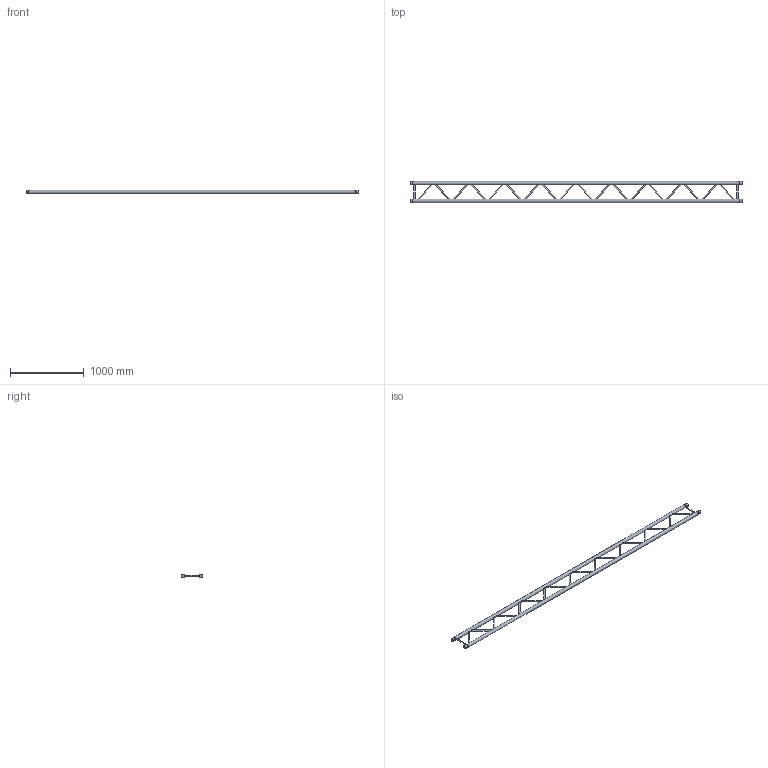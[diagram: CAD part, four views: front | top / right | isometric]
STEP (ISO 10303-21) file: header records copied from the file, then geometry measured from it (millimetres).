
FILE_DESCRIPTION(/* description */ (''),/* implementation_level */ '2;1');
FILE_NAME(/* name */ 'C:\Users\stephan\Desktop\Nieuwe map\H30L\111050056.stp',/* time_stamp */ '2016-09-12T12:01:45+02:00',/* author */ ('Stephan'),/* organization */ (''),/* preprocessor_version */ 'ST-DEVELOPER v15.6',/* originating_system */ 'Autodesk Inventor 2015',/* authorisation */ '');
FILE_SCHEMA (('AUTOMOTIVE_DESIGN { 1 0 10303 214 3 1 1 }'));
Length unit declared in the file: millimetre
Products named in the file (1): 160026976
Bounding box: 4500 x 287.3 x 48.3 mm (x, y, z)
Volume: 5155965.7 mm3; surface area: 2839531 mm2
Topology: 22 solids, 24 shells, 172 faces, 316 edges, 196 vertices
Faces by surface type: plane 96, cylinder 72, cone 4
Full cylindrical faces by diameter (mm): 10 x4, 16 x20, 41.8 x4, 42.3 x2, 48.3 x6
Entity records: 4510 total; most frequent: CARTESIAN_POINT 1245, DIRECTION 566, ORIENTED_EDGE 552, EDGE_CURVE 272, AXIS2_PLACEMENT_3D 245, EDGE_LOOP 232, VERTEX_POINT 196, STYLED_ITEM 137
